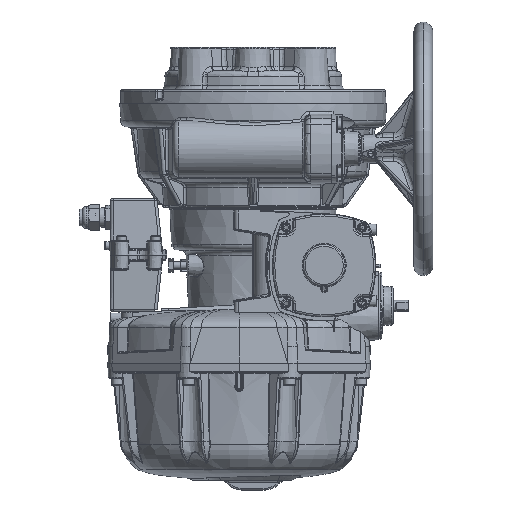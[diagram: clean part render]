
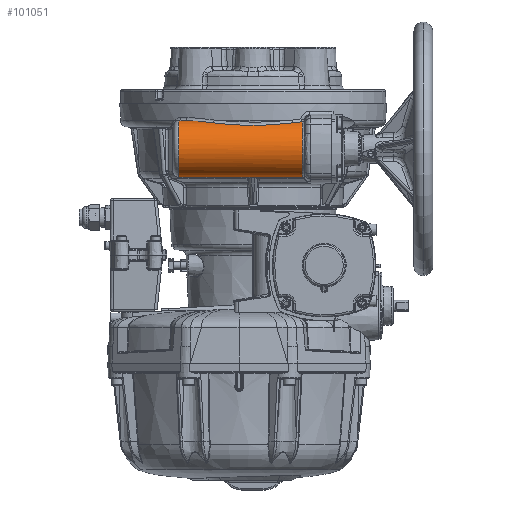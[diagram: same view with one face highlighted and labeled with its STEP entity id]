
A CAD part, front view. The second image highlights one B-rep face of the part: STEP entity #101051.
In plain terms, the highlighted cylindrical face has radius 30 mm (diameter 60 mm), a partial arc.
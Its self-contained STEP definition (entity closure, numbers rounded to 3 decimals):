
#3349 = CARTESIAN_POINT ( 'NONE',  ( 1606.333, 3.049, -404.08 ) ) ;
#5241 = ORIENTED_EDGE ( 'NONE', *, *, #116123, .T. ) ;
#5787 = CARTESIAN_POINT ( 'NONE',  ( 1713.709, -10.277, -407.199 ) ) ;
#6353 = CARTESIAN_POINT ( 'NONE',  ( 1649.871, -11.615, -407.898 ) ) ;
#7312 = CARTESIAN_POINT ( 'NONE',  ( 1636.042, -8.57, -406.422 ) ) ;
#10422 = DIRECTION ( 'NONE',  ( 0., -1., 0. ) ) ;
#10845 = VERTEX_POINT ( 'NONE', #7312 ) ;
#13372 = VERTEX_POINT ( 'NONE', #145261 ) ;
#13823 = VERTEX_POINT ( 'NONE', #72611 ) ;
#15986 = LINE ( 'NONE', #164445, #120124 ) ;
#19408 = CARTESIAN_POINT ( 'NONE',  ( 1733.347, 3.049, -434.08 ) ) ;
#19457 = CARTESIAN_POINT ( 'NONE',  ( 1706.686, -11.639, -407.911 ) ) ;
#20065 = CARTESIAN_POINT ( 'NONE',  ( 1639.464, -9.504, -406.814 ) ) ;
#20469 = CARTESIAN_POINT ( 'NONE',  ( 1723.916, -7.68, -406.048 ) ) ;
#28240 = CARTESIAN_POINT ( 'NONE',  ( 1733.347, 3.049, -464.08 ) ) ;
#29646 = AXIS2_PLACEMENT_3D ( 'NONE', #68117, #163289, #81829 ) ;
#30084 = CARTESIAN_POINT ( 'NONE',  ( 1630.898, -7.166, -405.832 ) ) ;
#31476 = VERTEX_POINT ( 'NONE', #106053 ) ;
#32866 = CYLINDRICAL_SURFACE ( 'NONE', #75247, 30. ) ;
#33051 = CARTESIAN_POINT ( 'NONE',  ( 1696.096, -12.993, -408.725 ) ) ;
#34197 = DIRECTION ( 'NONE',  ( 0., 1., 0. ) ) ;
#46709 = CARTESIAN_POINT ( 'NONE',  ( 1685.451, -13.685, -409.18 ) ) ;
#57373 = CARTESIAN_POINT ( 'NONE',  ( 1625.853, -5.505, -405.258 ) ) ;
#58126 = ORIENTED_EDGE ( 'NONE', *, *, #170145, .F. ) ;
#60433 = CARTESIAN_POINT ( 'NONE',  ( 1674.754, -13.78, -409.245 ) ) ;
#60943 = EDGE_CURVE ( 'NONE', #13372, #135684, #120246, .T. ) ;
#60994 = DIRECTION ( 'NONE',  ( -1., 0., 0. ) ) ;
#64595 = CARTESIAN_POINT ( 'NONE',  ( 1599.347, 3.049, -464.08 ) ) ;
#67757 = EDGE_CURVE ( 'NONE', #76917, #13372, #15986, .T. ) ;
#68117 = CARTESIAN_POINT ( 'NONE',  ( 1599.347, 3.049, -434.08 ) ) ;
#68201 = ORIENTED_EDGE ( 'NONE', *, *, #81485, .T. ) ;
#69278 = DIRECTION ( 'NONE',  ( -1., 0., 0. ) ) ;
#71161 = CARTESIAN_POINT ( 'NONE',  ( 1615.976, -1.577, -404.419 ) ) ;
#72611 = CARTESIAN_POINT ( 'NONE',  ( 1730.347, 3.049, -464.08 ) ) ;
#74165 = CARTESIAN_POINT ( 'NONE',  ( 1664.006, -13.281, -408.914 ) ) ;
#75247 = AXIS2_PLACEMENT_3D ( 'NONE', #19408, #60994, #34197 ) ;
#76917 = VERTEX_POINT ( 'NONE', #124304 ) ;
#81485 = EDGE_CURVE ( 'NONE', #162731, #10845, #141874, .T. ) ;
#81829 = DIRECTION ( 'NONE',  ( 0., 1., 0. ) ) ;
#83794 = CARTESIAN_POINT ( 'NONE',  ( 1718.928, -9.041, -406.62 ) ) ;
#84813 = CARTESIAN_POINT ( 'NONE',  ( 1608.715, 1.801, -404.08 ) ) ;
#87217 = CARTESIAN_POINT ( 'NONE',  ( 1717.194, -9.476, -406.817 ) ) ;
#87804 = CARTESIAN_POINT ( 'NONE',  ( 1653.378, -12.146, -408.208 ) ) ;
#88215 = CARTESIAN_POINT ( 'NONE',  ( 1727.146, -6.683, -405.679 ) ) ;
#89457 = ORIENTED_EDGE ( 'NONE', *, *, #173689, .T. ) ;
#91062 = B_SPLINE_CURVE_WITH_KNOTS ( 'NONE', 3,
 ( #156019, #88215, #20469, #115484 ),
 .UNSPECIFIED., .F., .F.,
 ( 4, 4 ),
 ( 0., 0.01 ),
 .UNSPECIFIED. ) ;
#91869 = DIRECTION ( 'NONE',  ( -1., 0., 0. ) ) ;
#97846 = VECTOR ( 'NONE', #109609, 1000. ) ;
#100843 = CARTESIAN_POINT ( 'NONE',  ( 1711.956, -10.642, -407.384 ) ) ;
#101051 = ADVANCED_FACE ( 'NONE', ( #118018 ), #32866, .T. ) ;
#101429 = CARTESIAN_POINT ( 'NONE',  ( 1642.914, -10.295, -407.201 ) ) ;
#101759 = CARTESIAN_POINT ( 'NONE',  ( 1720.652, -8.57, -406.422 ) ) ;
#105719 = EDGE_CURVE ( 'NONE', #13823, #31476, #107925, .T. ) ;
#106053 = CARTESIAN_POINT ( 'NONE',  ( 1730.347, -5.576, -405.347 ) ) ;
#107925 = CIRCLE ( 'NONE', #118093, 30. ) ;
#109609 = DIRECTION ( 'NONE',  ( -1., 0., 0. ) ) ;
#112975 = ORIENTED_EDGE ( 'NONE', *, *, #105719, .T. ) ;
#114485 = CARTESIAN_POINT ( 'NONE',  ( 1703.162, -12.167, -408.221 ) ) ;
#115062 = CARTESIAN_POINT ( 'NONE',  ( 1636.042, -8.57, -406.422 ) ) ;
#115484 = CARTESIAN_POINT ( 'NONE',  ( 1720.652, -8.57, -406.422 ) ) ;
#116123 = EDGE_CURVE ( 'NONE', #31476, #162731, #91062, .T. ) ;
#118018 = FACE_OUTER_BOUND ( 'NONE', #146264, .T. ) ;
#118093 = AXIS2_PLACEMENT_3D ( 'NONE', #173408, #91869, #10422 ) ;
#120124 = VECTOR ( 'NONE', #69278, 1000. ) ;
#120246 = CIRCLE ( 'NONE', #29646, 30. ) ;
#124304 = CARTESIAN_POINT ( 'NONE',  ( 1606.333, 3.049, -404.08 ) ) ;
#125184 = CARTESIAN_POINT ( 'NONE',  ( 1636.042, -8.57, -406.422 ) ) ;
#128198 = CARTESIAN_POINT ( 'NONE',  ( 1692.553, -13.291, -408.92 ) ) ;
#134025 = LINE ( 'NONE', #28240, #97846 ) ;
#135684 = VERTEX_POINT ( 'NONE', #64595 ) ;
#141210 = ORIENTED_EDGE ( 'NONE', *, *, #60943, .T. ) ;
#141865 = CARTESIAN_POINT ( 'NONE',  ( 1681.891, -13.781, -409.246 ) ) ;
#141874 = B_SPLINE_CURVE_WITH_KNOTS ( 'NONE', 3,
 ( #155017, #83794, #87217, #5787, #100843, #19457, #114485, #33051, #128198, #46709, #141865, #60433, #155611, #74165, #169313, #87804, #6353, #101429, #20065, #115062 ),
 .UNSPECIFIED., .F., .F.,
 ( 4, 2, 2, 2, 2, 2, 2, 2, 2, 4 ),
 ( 0., 0.005, 0.011, 0.022, 0.032, 0.043, 0.054, 0.065, 0.076, 0.086 ),
 .UNSPECIFIED. ) ;
#145261 = CARTESIAN_POINT ( 'NONE',  ( 1599.347, 3.049, -404.08 ) ) ;
#146264 = EDGE_LOOP ( 'NONE', ( #112975, #5241, #68201, #89457, #171747, #141210, #58126 ) ) ;
#150935 = B_SPLINE_CURVE_WITH_KNOTS ( 'NONE', 3,
 ( #125184, #30084, #57373, #152554, #71161, #166300, #84813, #3349 ),
 .UNSPECIFIED., .F., .F.,
 ( 4, 2, 2, 4 ),
 ( 0., 0.016, 0.024, 0.032 ),
 .UNSPECIFIED. ) ;
#152554 = CARTESIAN_POINT ( 'NONE',  ( 1618.428, -2.61, -404.602 ) ) ;
#155017 = CARTESIAN_POINT ( 'NONE',  ( 1720.652, -8.57, -406.422 ) ) ;
#155611 = CARTESIAN_POINT ( 'NONE',  ( 1671.178, -13.683, -409.179 ) ) ;
#156019 = CARTESIAN_POINT ( 'NONE',  ( 1730.347, -5.576, -405.347 ) ) ;
#162731 = VERTEX_POINT ( 'NONE', #101759 ) ;
#163289 = DIRECTION ( 'NONE',  ( 1., 0., 0. ) ) ;
#164445 = CARTESIAN_POINT ( 'NONE',  ( 1733.347, 3.049, -404.08 ) ) ;
#166300 = CARTESIAN_POINT ( 'NONE',  ( 1611.12, 0.628, -404.158 ) ) ;
#169313 = CARTESIAN_POINT ( 'NONE',  ( 1660.445, -12.978, -408.716 ) ) ;
#170145 = EDGE_CURVE ( 'NONE', #13823, #135684, #134025, .T. ) ;
#171747 = ORIENTED_EDGE ( 'NONE', *, *, #67757, .T. ) ;
#173408 = CARTESIAN_POINT ( 'NONE',  ( 1730.347, 3.049, -434.08 ) ) ;
#173689 = EDGE_CURVE ( 'NONE', #10845, #76917, #150935, .T. ) ;
